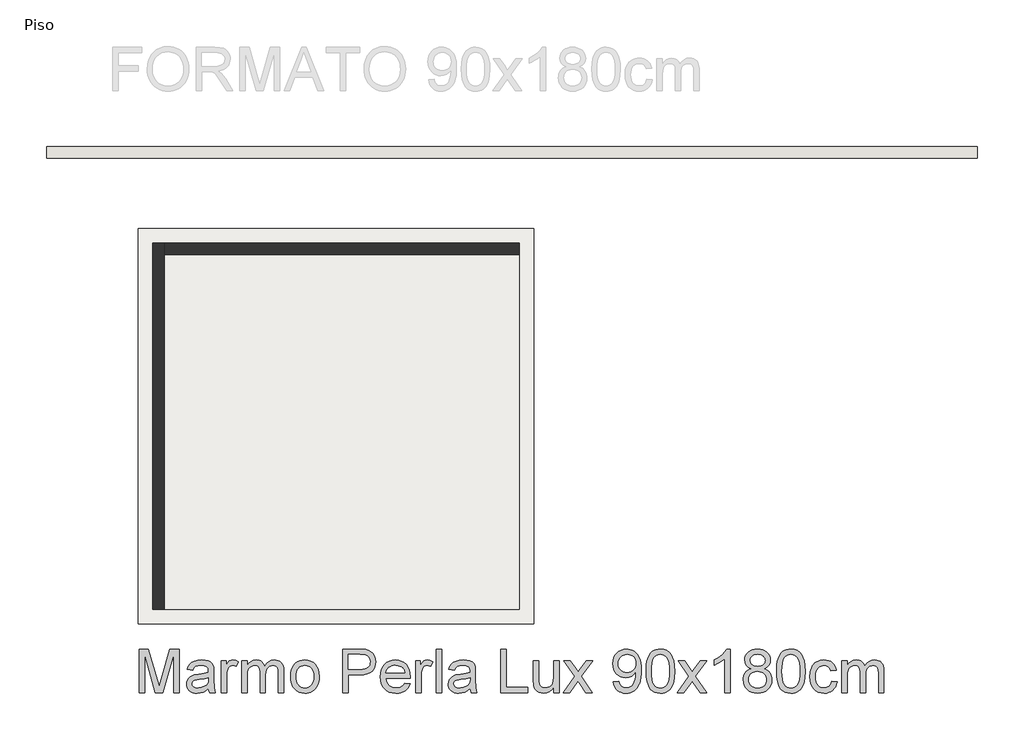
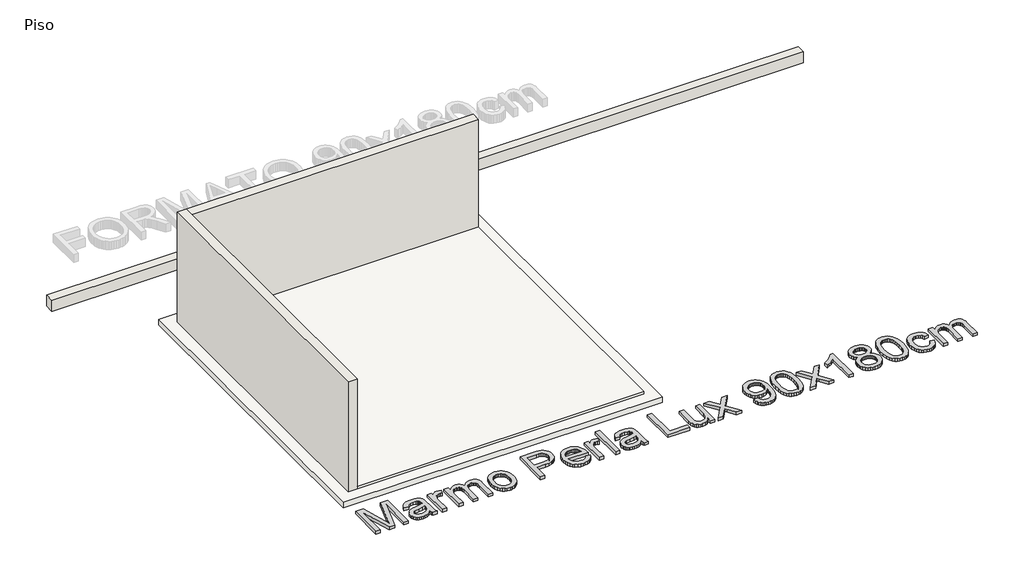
# One storey, part 1 of 2: 3 walls, 2 slabs, 1 proxy.
"""IFC4 building model written with IfcOpenShell, lengths in millimetres."""

from ifc_helpers import new_model, si_unit, frame, origin, origin_with_axes, place, context, project, spatial, polyline, outline, extrude, faceted_brep, element, save

model = new_model("IFC4")

# Units and contexts
model_context = context("Model", 3, world=origin())
ifc_project = project(units=[si_unit("LENGTHUNIT", "METRE", prefix="MILLI")], contexts=[model_context])

# Site, building, storey
site = spatial("IfcSite", under=ifc_project)
building = spatial("IfcBuilding", under=site)
storey = spatial("IfcBuildingStorey", under=building, Name="Piso", Elevation=0.0)

# Proxy
placement = place(None, origin())
element("IfcBuildingElementProxy", 1, Name="600mm Arial", ObjectType="600mm Arial", at=placement, inside=storey, context=model_context, shape_type="SweptSolid", body=[
    extrude(outline(polyline([(87793.9431466, -4721.2732725), (87793.9431466, -4118.5354116), (87923.5847617, -4118.5354116), (88046.8988065, -4543.3655396), (88071.7676294, -4632.0986769), (88098.6965915, -4536.0078997), (88219.9504971, -4118.5354116), (88349.5921122, -4118.5354116), (88349.5921122, -4721.2732725), (88274.2498795, -4721.2732725), (88274.2498795, -4193.8776442), (88122.8296503, -4721.2732725), (88020.7056085, -4721.2732725), (87869.2853793, -4193.8776442), (87869.2853793, -4721.2732725), (87793.9431466, -4721.2732725)])), origin_with_axes(), (0.0, 0.0, 1.0), 50.0),
    extrude(outline(polyline([(88754.5566125, -4664.766598), (88718.5593592, -4695.6318974), (88681.4952482, -4715.828619), (88642.5181508, -4726.9754434), (88600.7819385, -4730.6910516), (88567.235699, -4728.4561684), (88537.818935, -4721.7515191), (88512.5316464, -4710.5771035), (88491.3738331, -4694.9329216), (88474.667392, -4675.8122549), (88462.7342198, -4654.2083848), (88455.5743164, -4630.1213111), (88453.187682, -4603.551034), (88456.7929256, -4572.3178526), (88467.6086562, -4543.9541508), (88484.2921047, -4519.6739391), (88505.5005017, -4500.6912282), (88530.4245069, -4486.3438304), (88558.2547798, -4475.9695581), (88623.4434694, -4464.6387927), (88700.4779592, -4452.719416), (88754.1151541, -4438.7399002), (88754.5566125, -4421.9644812), (88749.3694763, -4388.3400669), (88742.8855562, -4375.8872613), (88733.8080679, -4366.3407235), (88718.1179008, -4356.8125799), (88699.0064312, -4350.006763), (88650.5195842, -4344.5621094), (88605.6379808, -4348.1857471), (88574.2944348, -4359.05666), (88552.9204909, -4379.1614111), (88537.9476937, -4410.486563), (88462.6054611, -4401.0687839), (88475.683666, -4359.8660004), (88495.1998059, -4327.4923849), (88522.9748965, -4302.7339266), (88560.8299538, -4284.376615), (88607.1279029, -4273.0090614), (88660.2316689, -4269.2198768), (88711.1649311, -4272.567603), (88751.5399801, -4282.6107814), (88781.9822152, -4297.7123373), (88803.1170358, -4316.2351958), (88817.1333398, -4339.13585), (88826.2200251, -4367.3707931), (88829.8988451, -4433.2952467), (88829.8988451, -4527.031579), (88833.7248178, -4657.9239929), (88839.3902005, -4690.2792144), (88848.7344032, -4721.2732725), (88773.3921706, -4721.2732725), (88761.3256412, -4695.0800744), (88754.5566125, -4664.766598)]), holes=[polyline([(88754.5566125, -4514.0821328), (88703.9360499, -4526.6269088), (88633.0084012, -4537.1851221), (88568.1875937, -4549.3988043), (88551.3202042, -4557.7497256), (88538.8306105, -4569.2644321), (88531.1050886, -4583.0600069), (88528.5299146, -4598.2535333), (88534.140115, -4620.6575468), (88550.9707163, -4639.0148584), (88578.6538365, -4651.2653288), (88616.8215935, -4655.348819), (88657.2886129, -4650.8422645), (88693.0467429, -4637.3226012), (88722.0358441, -4617.4017911), (88742.1957774, -4593.6917966), (88751.1353099, -4569.2644321), (88754.1151541, -4535.4192885), (88754.5566125, -4514.0821328)])]), origin_with_axes(), (0.0, 0.0, 1.0), 50.0),
    extrude(outline(polyline([(88933.4944149, -4721.2732725), (88933.4944149, -4278.6376559), (88999.4188684, -4278.6376559), (88999.4188684, -4344.120651), (89023.7726565, -4306.1552291), (89046.2134582, -4283.7880038), (89068.7278363, -4272.8619086), (89093.3023536, -4269.2198768), (89130.8263171, -4275.0324123), (89168.9388918, -4292.4700189), (89143.7757633, -4360.0131532), (89117.2882597, -4348.4248704), (89090.800756, -4344.5621094), (89068.304772, -4348.2777176), (89048.200021, -4359.424542), (89031.9580309, -4377.1564542), (89021.0503298, -4400.6273255), (89011.8900681, -4442.7130257), (89008.8366475, -4488.6246987), (89008.8366475, -4721.2732725), (88933.4944149, -4721.2732725)])), origin_with_axes(), (0.0, 0.0, 1.0), 50.0),
    extrude(outline(polyline([(89216.0277872, -4721.2732725), (89216.0277872, -4278.6376559), (89291.3700198, -4278.6376559), (89291.3700198, -4351.4782909), (89314.0315507, -4318.0194235), (89343.1678047, -4291.8078313), (89377.7855005, -4274.8668654), (89416.8913566, -4269.2198768), (89458.7931158, -4274.97723), (89476.6261955, -4282.1739216), (89492.380742, -4292.2492897), (89517.470294, -4319.8956217), (89533.877831, -4356.7757917), (89561.340222, -4318.4700789), (89592.6653739, -4291.1088555), (89627.8532867, -4274.6921215), (89666.9039605, -4269.2198768), (89697.0656856, -4271.4961467), (89723.5393936, -4278.3249562), (89746.3250847, -4289.7063054), (89765.4227588, -4305.6401943), (89780.5197162, -4326.3105639), (89791.3032572, -4351.9013552), (89797.7733817, -4382.4125682), (89799.9300899, -4417.8442029), (89799.9300899, -4721.2732725), (89724.5878573, -4721.2732725), (89724.5878573, -4450.2178184), (89722.8404179, -4412.6386726), (89717.5980994, -4387.3099973), (89707.7756502, -4369.9643612), (89692.2878182, -4356.3343333), (89672.3670081, -4347.5051654), (89649.2456247, -4344.5621094), (89627.8946734, -4346.4475047), (89608.4291174, -4352.1036903), (89590.8489565, -4361.5306665), (89575.1541909, -4374.728433), (89562.2461314, -4392.0832662), (89553.0260889, -4413.9814419), (89547.4940634, -4440.4229603), (89545.6500549, -4471.4078214), (89545.6500549, -4721.2732725), (89470.3078223, -4721.2732725), (89470.3078223, -4441.830109), (89465.9484206, -4399.2293739), (89460.4991686, -4382.5091372), (89452.8702157, -4368.8423211), (89442.7580594, -4358.2197285), (89429.8591969, -4350.6321623), (89414.1736283, -4346.0796227), (89395.7013536, -4344.5621094), (89366.6754642, -4348.6088114), (89339.9304432, -4360.7489172), (89317.8575235, -4380.6881214), (89302.8479381, -4408.1321182), (89294.2394994, -4446.2079047), (89291.3700198, -4498.0424778), (89291.3700198, -4721.2732725), (89216.0277872, -4721.2732725)])), origin_with_axes(), (0.0, 0.0, 1.0), 50.0),
    extrude(outline(polyline([(89894.1078807, -4499.9554642), (89898.1821738, -4442.6302523), (89910.4050531, -4393.2328974), (89930.7765186, -4351.7633995), (89959.2965703, -4318.2217586), (89988.00976, -4296.7834353), (90019.7027939, -4281.4703473), (90054.3756719, -4272.2824944), (90092.0283941, -4269.2198768), (90133.594461, -4272.9492805), (90171.1782054, -4284.1374917), (90204.7796271, -4302.7845103), (90234.3987263, -4328.8903364), (90258.5731719, -4361.5720532), (90275.840633, -4399.9467438), (90286.2011097, -4444.0144083), (90289.6546019, -4493.7750467), (90288.1278916, -4534.1041104), (90283.5477608, -4569.8898315), (90275.9142094, -4601.1322099), (90265.2272374, -4627.8312457), (90251.6202021, -4650.8928483), (90235.2264607, -4671.222927), (90216.0460132, -4688.821482), (90194.0788596, -4703.6885131), (90170.1803255, -4715.5021237), (90145.2057365, -4723.940417), (90119.1550927, -4729.0033929), (90092.0283941, -4730.6910516), (90049.8553219, -4726.9754434), (90011.9220897, -4715.828619), (89978.2286974, -4697.2505782), (89948.7751452, -4671.2413211), (89924.858217, -4638.2423062), (89907.7746968, -4598.6949917), (89897.5245847, -4552.5993777), (89894.1078807, -4499.9554642)]), holes=[polyline([(89969.4501133, -4499.8083114), (89971.6298141, -4536.3527891), (89978.1689166, -4567.9952392), (89989.0674207, -4594.7356617), (90004.3253265, -4616.5740567), (90022.8849731, -4633.5380152), (90043.6887, -4645.6551284), (90066.7365069, -4652.9253963), (90092.0283941, -4655.348819), (90117.1915226, -4652.9116007), (90140.1473591, -4645.5999461), (90160.8959036, -4633.413855), (90179.4371562, -4616.3533275), (90194.6950619, -4594.2988019), (90205.593566, -4567.1307165), (90212.1326685, -4534.8490714), (90214.3123693, -4497.4538666), (90212.1188729, -4462.0682172), (90205.5383837, -4431.2535016), (90194.5709017, -4405.0097198), (90179.216427, -4383.3368717), (90160.6061965, -4366.3729132), (90139.8714476, -4354.2558), (90117.0121801, -4346.9855321), (90092.0283941, -4344.5621094), (90066.7365069, -4346.976335), (90043.6887, -4354.2190118), (90022.8849731, -4366.2901398), (90004.3253265, -4383.1897189), (89989.0674207, -4404.9637345), (89978.1689166, -4431.6581718), (89971.6298141, -4463.2730307), (89969.4501133, -4499.8083114)])]), origin_with_axes(), (0.0, 0.0, 1.0), 50.0),
    extrude(outline(polyline([(90619.2768696, -4721.2732725), (90619.2768696, -4118.5354116), (90842.6548171, -4118.5354116), (90894.6733312, -4119.9701514), (90932.7123295, -4124.2743707), (90972.8666493, -4134.9981309), (91005.9208465, -4152.4541315), (91032.5371089, -4177.433319), (91053.3776239, -4210.7266396), (91066.8421049, -4249.9980426), (91071.3302653, -4292.9114773), (91068.2998373, -4329.911209), (91059.2085535, -4363.9494906), (91044.0564139, -4395.0263221), (91022.8434183, -4423.1417036), (90993.7209599, -4446.447028), (90954.8404315, -4463.0936883), (90906.2018332, -4473.0816844), (90847.805165, -4476.4110165), (90694.6191022, -4476.4110165), (90694.6191022, -4721.2732725), (90619.2768696, -4721.2732725)]), holes=[polyline([(90694.6191022, -4401.0687839), (90852.219749, -4401.0687839), (90888.4561255, -4399.3397385), (90919.0271193, -4394.1526024), (90943.9327303, -4385.5073755), (90963.1729587, -4373.4040578), (90977.5295536, -4358.1645462), (90987.7842642, -4340.1107373), (90993.9370905, -4319.2426311), (90995.9880327, -4295.5602277), (90991.1503844, -4261.7150841), (90976.6374397, -4233.1674413), (90954.2518203, -4211.6831328), (90925.796148, -4199.0279921), (90896.7334704, -4195.1652312), (90850.4539154, -4193.8776442), (90694.6191022, -4193.8776442), (90694.6191022, -4401.0687839)])]), origin_with_axes(), (0.0, 0.0, 1.0), 50.0),
    extrude(outline(polyline([(91475.4118488, -4589.4243654), (91549.2825534, -4598.8421445), (91537.9563865, -4628.429054), (91522.6662911, -4654.5026904), (91503.4122671, -4677.0630537), (91480.1943147, -4696.110144), (91453.2515571, -4711.2392911), (91422.8231176, -4722.0458247), (91388.9089961, -4728.5297448), (91351.5091928, -4730.6910516), (91304.7605883, -4726.9616478), (91263.1071494, -4715.7734367), (91226.5488761, -4697.126418), (91195.0857685, -4671.0205919), (91169.7846842, -4638.1825254), (91151.7124812, -4599.3387852), (91140.8691594, -4554.4893714), (91137.2547188, -4503.6342841), (91140.9059476, -4451.05475), (91151.859634, -4404.7108156), (91170.115778, -4364.6024811), (91195.6743796, -4330.7297464), (91227.0547138, -4303.8191785), (91262.7760556, -4284.5973442), (91302.8384048, -4273.0642437), (91347.2417617, -4269.2198768), (91390.2149772, -4273.0550466), (91429.0771115, -4284.560556), (91463.8281645, -4303.736405), (91494.4681361, -4330.5825936), (91519.4795133, -4364.3817519), (91537.3447827, -4404.41651), (91548.0639443, -4450.686868), (91551.6369982, -4503.1928257), (91551.1955398, -4523.4999119), (91212.5969514, -4523.4999119), (91216.9609516, -4553.5650679), (91225.6383682, -4579.8962217), (91238.6292011, -4602.4933733), (91255.9334505, -4621.3565226), (91276.594623, -4636.2281523), (91299.6562256, -4646.8507449), (91325.1182582, -4653.2243004), (91352.9807208, -4655.348819), (91393.0798583, -4651.4124816), (91426.8514254, -4639.6034696), (91454.2954223, -4619.1860188), (91475.4118488, -4589.4243654)]), holes=[polyline([(91212.5969514, -4448.1576793), (91476.2947656, -4448.1576793), (91466.1044343, -4408.3528474), (91457.3396458, -4392.6994685), (91446.128442, -4379.878781), (91425.5822325, -4364.4277372), (91402.2033317, -4353.3912773), (91375.9917396, -4346.7694014), (91346.9474561, -4344.5621094), (91320.4553539, -4346.3233445), (91296.1613466, -4351.6070496), (91274.0654343, -4360.4132249), (91254.1676169, -4372.7418703), (91237.4703728, -4388.0227686), (91224.9761806, -4405.6857029), (91216.6850401, -4425.7306731), (91212.5969514, -4448.1576793)])]), origin_with_axes(), (0.0, 0.0, 1.0), 50.0),
    extrude(outline(polyline([(91626.9792308, -4721.2732725), (91626.9792308, -4278.6376559), (91692.9036843, -4278.6376559), (91692.9036843, -4344.120651), (91717.2574724, -4306.1552291), (91739.6982741, -4283.7880038), (91762.2126522, -4272.8619086), (91786.7871695, -4269.2198768), (91824.311133, -4275.0324123), (91862.4237077, -4292.4700189), (91837.2605792, -4360.0131532), (91810.7730756, -4348.4248704), (91784.2855719, -4344.5621094), (91761.7895879, -4348.2777176), (91741.6848369, -4359.424542), (91725.4428468, -4377.1564542), (91714.5351456, -4400.6273255), (91705.374884, -4442.7130257), (91702.3214634, -4488.6246987), (91702.3214634, -4721.2732725), (91626.9792308, -4721.2732725)])), origin_with_axes(), (0.0, 0.0, 1.0), 50.0),
    extrude(outline(polyline([(91909.5126031, -4721.2732725), (91909.5126031, -4118.5354116), (91984.8548357, -4118.5354116), (91984.8548357, -4721.2732725), (91909.5126031, -4721.2732725)])), origin_with_axes(), (0.0, 0.0, 1.0), 50.0),
    extrude(outline(polyline([(92380.4015569, -4664.766598), (92344.4043037, -4695.6318974), (92307.3401927, -4715.828619), (92268.3630953, -4726.9754434), (92226.6268829, -4730.6910516), (92193.0806435, -4728.4561684), (92163.6638795, -4721.7515191), (92138.3765908, -4710.5771035), (92117.2187776, -4694.9329216), (92100.5123365, -4675.8122549), (92088.5791642, -4654.2083848), (92081.4192609, -4630.1213111), (92079.0326265, -4603.551034), (92082.63787, -4572.3178526), (92093.4536007, -4543.9541508), (92110.1370492, -4519.6739391), (92131.3454462, -4500.6912282), (92156.2694514, -4486.3438304), (92184.0997243, -4475.9695581), (92249.2884138, -4464.6387927), (92326.3229036, -4452.719416), (92379.9600985, -4438.7399002), (92380.4015569, -4421.9644812), (92375.2144208, -4388.3400669), (92368.7305006, -4375.8872613), (92359.6530124, -4366.3407235), (92343.9628453, -4356.8125799), (92324.8513756, -4350.006763), (92276.3645287, -4344.5621094), (92231.4829253, -4348.1857471), (92200.1393793, -4359.05666), (92178.7654354, -4379.1614111), (92163.7926382, -4410.486563), (92088.4504055, -4401.0687839), (92101.5286105, -4359.8660004), (92121.0447503, -4327.4923849), (92148.819841, -4302.7339266), (92186.6748983, -4284.376615), (92232.9728473, -4273.0090614), (92286.0766134, -4269.2198768), (92337.0098756, -4272.567603), (92377.3849246, -4282.6107814), (92407.8271597, -4297.7123373), (92428.9619803, -4316.2351958), (92442.9782843, -4339.13585), (92452.0649696, -4367.3707931), (92455.7437895, -4433.2952467), (92455.7437895, -4527.031579), (92459.5697623, -4657.9239929), (92465.235145, -4690.2792144), (92474.5793477, -4721.2732725), (92399.2371151, -4721.2732725), (92387.1705856, -4695.0800744), (92380.4015569, -4664.766598)]), holes=[polyline([(92380.4015569, -4514.0821328), (92329.7809944, -4526.6269088), (92258.8533457, -4537.1851221), (92194.0325382, -4549.3988043), (92177.1651487, -4557.7497256), (92164.6755549, -4569.2644321), (92156.950033, -4583.0600069), (92154.3748591, -4598.2535333), (92159.9850595, -4620.6575468), (92176.8156608, -4639.0148584), (92204.4987809, -4651.2653288), (92242.6665379, -4655.348819), (92283.1335574, -4650.8422645), (92318.8916873, -4637.3226012), (92347.8807885, -4617.4017911), (92368.0407219, -4593.6917966), (92376.9802544, -4569.2644321), (92379.9600985, -4535.4192885), (92380.4015569, -4514.0821328)])]), origin_with_axes(), (0.0, 0.0, 1.0), 50.0),
    extrude(outline(polyline([(92804.2016154, -4721.2732725), (92804.2016154, -4118.5354116), (92879.543848, -4118.5354116), (92879.543848, -4645.9310399), (93180.9127784, -4645.9310399), (93180.9127784, -4721.2732725), (92804.2016154, -4721.2732725)])), origin_with_axes(), (0.0, 0.0, 1.0), 50.0),
    extrude(outline(polyline([(93538.7883833, -4721.2732725), (93538.7883833, -4645.1952759), (93511.5283275, -4682.5996777), (93479.7801113, -4709.3171076), (93443.5437348, -4725.3475656), (93402.8191979, -4730.6910516), (93366.1229689, -4726.9386552), (93331.9651256, -4715.6814662), (93303.3071182, -4698.7588944), (93283.1103967, -4678.0103499), (93269.517157, -4652.8104332), (93260.669595, -4622.533745), (93256.255011, -4552.4890131), (93256.255011, -4278.6376559), (93331.5972436, -4278.6376559), (93331.5972436, -4517.0251888), (93332.7376778, -4564.7026953), (93336.1589804, -4593.8389494), (93347.1402579, -4619.4619303), (93365.957422, -4638.941282), (93391.3596738, -4651.2469347), (93422.0962145, -4655.348819), (93454.5985887, -4651.1549642), (93485.0040356, -4638.5734), (93510.0751936, -4618.7629545), (93526.5747011, -4592.8824562), (93535.7349628, -4557.4370259), (93538.7883833, -4508.9317849), (93538.7883833, -4278.6376559), (93614.1306159, -4278.6376559), (93614.1306159, -4721.2732725), (93538.7883833, -4721.2732725)])), origin_with_axes(), (0.0, 0.0, 1.0), 50.0),
    extrude(outline(polyline([(93670.6372904, -4721.2732725), (93831.6224515, -4498.7782418), (93680.0550695, -4278.6376559), (93770.7011931, -4278.6376559), (93843.8361337, -4384.5876705), (93877.9755829, -4434.6196218), (93907.5532953, -4393.711144), (93990.841779, -4278.6376559), (94081.4879026, -4278.6376559), (93922.2685751, -4498.7782418), (94075.6017907, -4721.2732725), (93984.9556671, -4721.2732725), (93892.6908627, -4587.511379), (93875.7682909, -4563.0840146), (93761.283414, -4721.2732725), (93670.6372904, -4721.2732725)])), origin_with_axes(), (0.0, 0.0, 1.0), 50.0),
    extrude(outline(polyline([(94367.5529421, -4570.5888073), (94442.8951747, -4561.1710282), (94455.7710445, -4603.9373101), (94465.2440059, -4620.2022928), (94476.7403182, -4633.05517), (94490.1312229, -4642.8086414), (94505.2879611, -4649.7754067), (94540.8989382, -4655.348819), (94572.8494895, -4651.7619695), (94601.893773, -4641.0014211), (94626.0268319, -4624.2443963), (94643.2437092, -4602.6681172), (94656.285126, -4574.3044154), (94667.8918029, -4537.1851221), (94676.0587832, -4494.5843871), (94678.78111, -4449.77636), (94678.3396516, -4435.0610802), (94652.238424, -4466.919661), (94618.0805808, -4492.1563659), (94578.3309312, -4508.6006911), (94535.4542847, -4514.0821328), (94499.6639651, -4510.7344066), (94466.7523221, -4500.6912282), (94436.7193557, -4483.9525974), (94409.5650659, -4460.5185143), (94387.0644834, -4431.6121865), (94370.9926387, -4398.4568217), (94361.3495319, -4361.0524199), (94358.135163, -4319.398981), (94361.5058818, -4276.3567875), (94371.6180381, -4237.729178), (94388.471632, -4203.5161525), (94412.0666635, -4173.7177109), (94440.7384665, -4149.5754549), (94472.822375, -4132.3309864), (94508.318389, -4121.9843053), (94547.2265085, -4118.5354116), (94575.9534938, -4120.5035803), (94603.4204833, -4126.4080863), (94629.6274769, -4136.2489297), (94654.5744747, -4150.0261104), (94677.4291436, -4167.4453228), (94697.3591507, -4188.2122615), (94714.364496, -4212.3269263), (94728.4451793, -4239.7893172), (94739.4862377, -4272.1813269), (94747.372708, -4311.0848479), (94752.1045901, -4356.4998802), (94753.6818842, -4408.4264238), (94752.1091887, -4462.960331), (94747.3911021, -4511.6357175), (94739.5276244, -4554.4525833), (94728.5187557, -4591.4109282), (94714.4058827, -4623.4120632), (94697.230392, -4651.3572993), (94676.9922838, -4675.2466364), (94653.6915579, -4695.0800744), (94627.797264, -4710.6598769), (94599.7784515, -4721.7883073), (94569.6351205, -4728.4653655), (94537.367271, -4730.6910516), (94503.5313245, -4728.0652938), (94472.9511337, -4720.1880206), (94445.6266985, -4707.0592319), (94421.558019, -4688.6789277), (94401.3521004, -4665.5437487), (94385.615948, -4638.1503357), (94374.3495619, -4606.4986885), (94367.5529421, -4570.5888073)]), holes=[polyline([(94678.3396516, -4317.6331474), (94676.3071036, -4290.6306089), (94670.2094595, -4266.5711264), (94660.0467194, -4245.4546999), (94645.8188832, -4227.2813294), (94628.2249268, -4212.6672171), (94607.9638259, -4202.2285655), (94585.0355806, -4195.9653745), (94559.4401907, -4193.8776442), (94533.0262635, -4196.1263229), (94509.1139338, -4202.872359), (94487.7032017, -4214.1157525), (94468.7940671, -4229.8565033), (94453.3430233, -4249.1749066), (94442.3065635, -4271.1512573), (94435.6846876, -4295.7855554), (94433.4773956, -4323.0778009), (94435.5651259, -4347.5557492), (94441.8283169, -4369.6332674), (94452.2669685, -4389.3103556), (94466.8810808, -4406.5870138), (94485.0636484, -4420.6539016), (94506.207666, -4430.7016786), (94530.3131338, -4436.7303448), (94557.3800516, -4438.7399002), (94582.621355, -4436.7303448), (94605.5174106, -4430.7016786), (94626.0682186, -4420.6539016), (94644.2737788, -4406.5870138), (94659.1775982, -4388.9700648), (94669.8231834, -4368.272104), (94676.2105345, -4344.4931316), (94678.3396516, -4317.6331474)])]), origin_with_axes(), (0.0, 0.0, 1.0), 50.0),
    extrude(outline(polyline([(94819.6063377, -4424.7603844), (94825.1429618, -4328.2833311), (94832.0637418, -4287.3702548), (94841.7528338, -4251.3408118), (94854.1688512, -4219.9006968), (94869.2704071, -4192.7556041), (94887.0575016, -4169.9055337), (94907.5301346, -4151.3504856), (94930.7572841, -4136.9938907), (94956.8079278, -4126.7391801), (94985.6820659, -4120.5863537), (95017.3796983, -4118.5354116), (95063.8064061, -4123.3914539), (95105.3770716, -4137.9595809), (95140.1419201, -4161.6695755), (95166.1511772, -4193.9512206), (95185.7960757, -4234.5286047), (95201.4678487, -4283.1258162), (95211.7317564, -4344.8380209), (95215.1530589, -4424.7603844), (95209.6716172, -4520.6856146), (95202.8198151, -4561.4607353), (95193.227292, -4597.4441929), (95180.9078437, -4628.8981035), (95165.8752657, -4656.0845829), (95148.129558, -4679.0036312), (95127.6707205, -4697.6552484), (95104.4159799, -4712.1084123), (95078.2825626, -4722.4321008), (95049.2704688, -4728.6263139), (95017.3796983, -4730.6910516), (94975.8826093, -4727.1042021), (94939.0944098, -4716.3436538), (94907.0150998, -4698.4094065), (94879.6446793, -4673.3014603), (94853.3779049, -4627.9140192), (94834.6159231, -4571.3613595), (94823.3587341, -4503.6434812), (94819.6063377, -4424.7603844)]), holes=[polyline([(94894.9485703, -4424.6132316), (94897.1558623, -4490.1100223), (94903.7777382, -4543.1264163), (94914.8141981, -4583.6624137), (94930.2652419, -4611.7180143), (94948.9536472, -4630.8064913), (94969.7021918, -4644.4411178), (94992.5108755, -4652.6218937), (95017.3796983, -4655.348819), (95042.2485212, -4652.6126966), (95065.0572049, -4644.4043296), (95085.8057494, -4630.7237179), (95104.4941548, -4611.5708615), (95119.9451986, -4583.4692756), (95130.9816585, -4542.9424753), (95137.6035344, -4489.9904606), (95139.8108263, -4424.6132316), (95137.6771108, -4360.8500848), (95131.275964, -4308.7671913), (95120.6073862, -4268.3645512), (95105.6713772, -4239.6421644), (95087.2956715, -4219.6201868), (95066.3080037, -4205.3187743), (95042.7083737, -4196.7379267), (95016.4967816, -4193.8776442), (94991.7567174, -4196.3976359), (94969.3343098, -4203.9576109), (94949.2295587, -4216.5575692), (94931.4424643, -4234.1975109), (94915.4763857, -4265.4674805), (94904.0720438, -4307.6267571), (94897.2294387, -4360.6753408), (94894.9485703, -4424.6132316)])]), origin_with_axes(), (0.0, 0.0, 1.0), 50.0),
    extrude(outline(polyline([(95252.8241753, -4721.2732725), (95413.8093363, -4498.7782418), (95262.2419543, -4278.6376559), (95352.8880779, -4278.6376559), (95426.0230186, -4384.5876705), (95460.1624677, -4434.6196218), (95489.7401801, -4393.711144), (95573.0286639, -4278.6376559), (95663.6747875, -4278.6376559), (95504.45546, -4498.7782418), (95657.7886755, -4721.2732725), (95567.1425519, -4721.2732725), (95474.8777475, -4587.511379), (95457.9551758, -4563.0840146), (95343.4702989, -4721.2732725), (95252.8241753, -4721.2732725)])), origin_with_axes(), (0.0, 0.0, 1.0), 50.0),
    extrude(outline(polyline([(95987.4109432, -4721.2732725), (95912.0687106, -4721.2732725), (95912.0687106, -4251.561541), (95880.6148, -4277.000581), (95840.6996035, -4302.4028328), (95798.7978443, -4324.6045112), (95761.3842454, -4340.4418311), (95761.3842454, -4269.2198768), (95820.5580643, -4237.0302022), (95871.8224203, -4198.7336865), (95912.2342575, -4158.0091497), (95938.8505199, -4118.5354116), (95987.4109432, -4118.5354116), (95987.4109432, -4721.2732725)])), origin_with_axes(), (0.0, 0.0, 1.0), 50.0),
    extrude(outline(polyline([(96276.124733, -4389.29656), (96235.7864723, -4369.4309323), (96220.1284948, -4356.8493681), (96207.4779527, -4342.5019703), (96190.7577161, -4309.0614969), (96185.1843038, -4269.6613352), (96188.2193303, -4238.9339916), (96197.3244097, -4210.7634278), (96212.499542, -4185.1496439), (96233.7447272, -4162.0926398), (96260.0390928, -4143.0363525), (96290.3617663, -4129.4247186), (96324.7127476, -4121.2577384), (96363.0920367, -4118.5354116), (96401.6552668, -4121.3221177), (96436.2637655, -4129.682236), (96466.9175328, -4143.6157666), (96493.6165686, -4163.1227094), (96515.2480299, -4186.6303689), (96530.6990737, -4212.5660496), (96539.9697, -4240.9297514), (96543.0599087, -4271.7214744), (96537.5600729, -4309.8524432), (96521.0605654, -4342.7226995), (96508.6399496, -4356.9735282), (96493.3774453, -4369.4861146), (96454.3267715, -4389.29656), (96479.0898283, -4399.8317807), (96500.698297, -4413.1904956), (96519.1521776, -4429.3727049), (96534.4514701, -4448.3784085), (96546.4582187, -4469.7845421), (96555.0344677, -4493.1680414), (96560.1802171, -4518.5289064), (96561.8954669, -4545.8671372), (96558.4925584, -4583.446283), (96548.2838331, -4617.8984318), (96531.2692908, -4649.2235837), (96507.4489316, -4677.4217387), (96478.0735543, -4700.7270631), (96444.3939576, -4717.3737233), (96406.4101416, -4727.3617195), (96364.1221063, -4730.6910516), (96321.8340709, -4727.3479239), (96283.8502549, -4717.318541), (96250.1706583, -4700.6029029), (96220.795281, -4677.2010095), (96196.9749218, -4648.805118), (96179.9603795, -4617.1074856), (96169.7516541, -4582.1081122), (96166.3487457, -4543.806998), (96168.1329734, -4515.222567), (96173.4856564, -4489.0661571), (96182.4067948, -4465.3377684), (96194.8963885, -4444.0374009), (96210.6785261, -4425.5513307), (96229.4772961, -4410.2658338), (96251.2926984, -4398.1809102), (96276.124733, -4389.29656)]), holes=[polyline([(96241.6909783, -4541.1582476), (96244.8363693, -4569.981802), (96254.2725425, -4597.8856513), (96271.691755, -4622.2210453), (96298.7862639, -4640.3392335), (96331.2334559, -4651.5964226), (96364.7107175, -4655.348819), (96391.9523792, -4653.3760518), (96415.9934676, -4647.4577502), (96436.8339826, -4637.5939142), (96454.4739243, -4623.7845438), (96468.5086224, -4606.9309499), (96478.5334068, -4587.9344433), (96484.5482774, -4566.7950242), (96486.5532343, -4543.5126924), (96484.4838981, -4519.8578801), (96478.2758894, -4498.3367834), (96467.9292083, -4478.9494023), (96453.4438547, -4461.6957367), (96435.3256665, -4447.5322799), (96414.0804812, -4437.415525), (96389.708299, -4431.3454721), (96362.2091199, -4429.3221211), (96335.3675298, -4431.3178809), (96311.6437397, -4437.3051604), (96291.0377494, -4447.2839595), (96273.5495591, -4461.2542783), (96259.61143, -4478.2228353), (96249.6556235, -4497.1963492), (96243.6821396, -4518.17482), (96241.6909783, -4541.1582476)]), polyline([(96260.5265364, -4271.8686272), (96262.195801, -4289.1406869), (96267.2035947, -4304.7572775), (96275.5499174, -4318.7183993), (96287.2347693, -4331.024052), (96302.1109975, -4341.0672305), (96320.0314492, -4348.2409294), (96340.9961244, -4352.5451487), (96365.0050231, -4353.9798885), (96388.4207121, -4352.5543458), (96408.9301333, -4348.2777176), (96426.5332868, -4341.1500039), (96441.2301725, -4331.1712048), (96452.8184553, -4319.1230695), (96461.0958002, -4305.7873471), (96466.0622071, -4291.1640378), (96467.7176761, -4275.2531415), (96466.0070248, -4258.7214444), (96460.875071, -4243.5601077), (96452.3218146, -4229.7691314), (96440.3472557, -4217.3485155), (96425.3192762, -4207.0800093), (96407.6057581, -4199.745362), (96387.2067015, -4195.3445737), (96364.1221063, -4193.8776442), (96340.8581686, -4195.312384), (96320.362543, -4199.6166033), (96302.6352293, -4206.7903022), (96287.6762277, -4216.8334807), (96275.7982378, -4228.881616), (96267.3139593, -4242.0701856), (96262.2233921, -4256.3991893), (96260.5265364, -4271.8686272)])]), origin_with_axes(), (0.0, 0.0, 1.0), 50.0),
    extrude(outline(polyline([(96627.8199204, -4424.7603844), (96633.3565445, -4328.2833311), (96640.2773245, -4287.3702548), (96649.9664165, -4251.3408118), (96662.3824339, -4219.9006968), (96677.4839898, -4192.7556041), (96695.2710842, -4169.9055337), (96715.7437173, -4151.3504856), (96738.9708667, -4136.9938907), (96765.0215105, -4126.7391801), (96793.8956486, -4120.5863537), (96825.593281, -4118.5354116), (96872.0199888, -4123.3914539), (96913.5906543, -4137.9595809), (96948.3555028, -4161.6695755), (96974.3647599, -4193.9512206), (96994.0096584, -4234.5286047), (97009.6814314, -4283.1258162), (97019.9453391, -4344.8380209), (97023.3666416, -4424.7603844), (97017.8851999, -4520.6856146), (97011.0333978, -4561.4607353), (97001.4408747, -4597.4441929), (96989.1214264, -4628.8981035), (96974.0888484, -4656.0845829), (96956.3431406, -4679.0036312), (96935.8843032, -4697.6552484), (96912.6295626, -4712.1084123), (96886.4961453, -4722.4321008), (96857.4840515, -4728.6263139), (96825.593281, -4730.6910516), (96784.096192, -4727.1042021), (96747.3079925, -4716.3436538), (96715.2286825, -4698.4094065), (96687.858262, -4673.3014603), (96661.5914876, -4627.9140192), (96642.8295058, -4571.3613595), (96631.5723168, -4503.6434812), (96627.8199204, -4424.7603844)]), holes=[polyline([(96703.162153, -4424.6132316), (96705.369445, -4490.1100223), (96711.9913209, -4543.1264163), (96723.0277808, -4583.6624137), (96738.4788246, -4611.7180143), (96757.1672299, -4630.8064913), (96777.9157745, -4644.4411178), (96800.7244582, -4652.6218937), (96825.593281, -4655.348819), (96850.4621039, -4652.6126966), (96873.2707876, -4644.4043296), (96894.0193321, -4630.7237179), (96912.7077375, -4611.5708615), (96928.1587813, -4583.4692756), (96939.1952411, -4542.9424753), (96945.8171171, -4489.9904606), (96948.024409, -4424.6132316), (96945.8906935, -4360.8500848), (96939.4895467, -4308.7671913), (96928.8209689, -4268.3645512), (96913.8849599, -4239.6421644), (96895.5092542, -4219.6201868), (96874.5215864, -4205.3187743), (96850.9219564, -4196.7379267), (96824.7103642, -4193.8776442), (96799.9703001, -4196.3976359), (96777.5478925, -4203.9576109), (96757.4431414, -4216.5575692), (96739.656047, -4234.1975109), (96723.6899684, -4265.4674805), (96712.2856265, -4307.6267571), (96705.4430214, -4360.6753408), (96703.162153, -4424.6132316)])]), origin_with_axes(), (0.0, 0.0, 1.0), 50.0),
    extrude(outline(polyline([(97390.6600256, -4561.1710282), (97466.0022582, -4570.5888073), (97457.8076868, -4606.1400036), (97444.9961963, -4637.5985127), (97427.5677868, -4664.9643346), (97405.5224582, -4688.2374693), (97379.7891127, -4706.8109116), (97351.2966521, -4720.077656), (97320.0450767, -4728.0377027), (97286.0343862, -4730.6910516), (97243.7785405, -4726.989239), (97205.8912935, -4715.8838013), (97172.3726453, -4697.3747384), (97143.2225957, -4671.4620503), (97119.6275642, -4638.6331808), (97102.7739703, -4599.3755734), (97092.661814, -4553.6892281), (97089.2910952, -4501.574145), (97095.0484484, -4434.5276513), (97102.2451399, -4404.3567292), (97112.3205081, -4376.4206902), (97125.3435307, -4351.2805544), (97141.3831857, -4329.4973417), (97160.439473, -4311.0710523), (97182.5123928, -4296.0016861), (97206.6040649, -4284.2846445), (97231.7166096, -4275.9153291), (97257.8500268, -4270.8937399), (97285.0043166, -4269.2198768), (97318.4309944, -4271.5191393), (97348.6662959, -4278.4169267), (97375.710221, -4289.913239), (97399.5627699, -4306.0080763), (97419.8192723, -4326.3335566), (97436.0750579, -4350.5217977), (97448.3301269, -4378.5727999), (97456.5844792, -4410.486563), (97381.2422465, -4419.904342), (97367.5754304, -4387.0340858), (97346.293457, -4363.471244), (97318.5735487, -4349.2893931), (97285.5929278, -4344.5621094), (97259.9929395, -4346.888963), (97236.9037457, -4353.8695239), (97216.3253466, -4365.503792), (97198.2577421, -4381.7917673), (97183.5470609, -4403.110529), (97173.0394314, -4429.8371559), (97166.7348537, -4461.9716482), (97164.6333278, -4499.5140058), (97166.6888684, -4537.621982), (97172.8554904, -4570.1289548), (97183.1331936, -4597.0349242), (97197.5219782, -4618.3398902), (97215.2308977, -4634.5312966), (97235.469006, -4646.0965868), (97258.2363029, -4653.0357609), (97283.5327886, -4655.348819), (97322.5466742, -4649.5730716), (97339.4186622, -4642.3533875), (97354.5340137, -4632.2458297), (97367.4696644, -4619.1400336), (97377.8025499, -4602.9256346), (97385.5326703, -4583.6026328), (97390.6600256, -4561.1710282)])), origin_with_axes(), (0.0, 0.0, 1.0), 50.0),
    extrude(outline(polyline([(97531.9267118, -4721.2732725), (97531.9267118, -4278.6376559), (97607.2689444, -4278.6376559), (97607.2689444, -4351.4782909), (97629.9304753, -4318.0194235), (97659.0667293, -4291.8078313), (97693.6844251, -4274.8668654), (97732.7902811, -4269.2198768), (97774.6920404, -4274.97723), (97792.5251201, -4282.1739216), (97808.2796666, -4292.2492897), (97833.3692186, -4319.8956217), (97849.7767556, -4356.7757917), (97877.2391465, -4318.4700789), (97908.5642984, -4291.1088555), (97943.7522113, -4274.6921215), (97982.8028851, -4269.2198768), (98012.9646101, -4271.4961467), (98039.4383182, -4278.3249562), (98062.2240093, -4289.7063054), (98081.3216834, -4305.6401943), (98096.4186407, -4326.3105639), (98107.2021817, -4351.9013552), (98113.6723063, -4382.4125682), (98115.8290145, -4417.8442029), (98115.8290145, -4721.2732725), (98040.4867819, -4721.2732725), (98040.4867819, -4450.2178184), (98038.7393424, -4412.6386726), (98033.497024, -4387.3099973), (98023.6745747, -4369.9643612), (98008.1867427, -4356.3343333), (97988.2659327, -4347.5051654), (97965.1445493, -4344.5621094), (97943.793598, -4346.4475047), (97924.3280419, -4352.1036903), (97906.7478811, -4361.5306665), (97891.0531155, -4374.728433), (97878.145056, -4392.0832662), (97868.9250135, -4413.9814419), (97863.392988, -4440.4229603), (97861.5489795, -4471.4078214), (97861.5489795, -4721.2732725), (97786.2067468, -4721.2732725), (97786.2067468, -4441.830109), (97781.8473452, -4399.2293739), (97776.3980931, -4382.5091372), (97768.7691403, -4368.8423211), (97758.6569839, -4358.2197285), (97745.7581215, -4350.6321623), (97730.0725529, -4346.0796227), (97711.6002782, -4344.5621094), (97682.5743888, -4348.6088114), (97655.8293677, -4360.7489172), (97633.756448, -4380.6881214), (97618.7468626, -4408.1321182), (97610.1384239, -4446.2079047), (97607.2689444, -4498.0424778), (97607.2689444, -4721.2732725), (97531.9267118, -4721.2732725)])), origin_with_axes(), (0.0, 0.0, 1.0), 50.0),
])

# Slabs
element("IfcSlab", 2, ObjectType="5cm - Porcelanato Marmo Perla Lux  - Polido 90x180", at=placement, inside=storey, context=model_context, shape_type="SweptSolid", body=[
    extrude(outline(polyline([(93063.6333735, 1354.8603588), (93063.6333735, -3565.7396412), (88143.0333735, -3565.7396412), (88143.0333735, 1354.8603588), (93063.6333735, 1354.8603588)])), origin_with_axes(), (0.0, 0.0, 1.0), 50.0),
])
element("IfcSlab", 3, ObjectType="CO02 - Concreto Estrutural Simples", at=placement, inside=storey, context=model_context, shape_type="SweptSolid", body=[
    extrude(outline(polyline([(93263.6333735, 1713.6603588), (93263.6333735, -3765.7396412), (87784.2333735, -3765.7396412), (87784.2333735, 1713.6603588), (93263.6333735, 1713.6603588)])), frame((0.0, 0.0, -100.0), z_axis=(0.0, 0.0, 1.0), x_axis=(1.0, 0.0, 0.0)), (0.0, 0.0, 1.0), 100.0),
])

# Walls
element("IfcWall", 4, ObjectType="CO01 - Bloco de Concreto 14cm / Pintura Branca Simples", at=placement, inside=storey, context=model_context, shape_type="SweptSolid", body=[
    extrude(outline(polyline([(99411.6967628, 2688.6093836), (86511.6967628, 2688.6093836), (86511.6967628, 2847.4093836), (99411.6967628, 2847.4093836), (99411.6967628, 2688.6093836)])), origin_with_axes(), (0.0, 0.0, 1.0), 200.0),
])
element("IfcWall", 5, ObjectType="CO01 - Bloco de Concreto 14cm / Pintura Branca Simples", at=placement, inside=storey, context=model_context, shape_type="Brep", body=[
    faceted_brep([(88143.0333735, -3565.7396412, 0.0), (88143.0333735, 1354.8603588, 0.0), (88143.0333735, 1513.6603588, 0.0), (88143.0333735, 1513.6603588, 2000.0), (88143.0333735, 1354.8603588, 2000.0), (88143.0333735, -3565.7396412, 2000.0), (87984.2333735, -3565.7396412, 0.0), (87984.2333735, -3565.7396412, 2000.0), (87984.2333735, 1513.6603588, 2000.0), (87984.2333735, 1513.6603588, 0.0)], [[[0, 1, 2, 3, 4, 5]], [[6, 7, 8, 9]], [[2, 1, 0, 6, 9]], [[5, 4, 3, 8, 7]], [[0, 5, 7, 6]], [[3, 2, 9, 8]]]),
])
element("IfcWall", 6, ObjectType="CO01 - Bloco de Concreto 14cm / Pintura Branca Simples", at=placement, inside=storey, context=model_context, shape_type="SweptSolid", body=[
    extrude(outline(polyline([(93063.6333735, 1354.8603588), (88143.0333735, 1354.8603588), (88143.0333735, 1513.6603588), (93063.6333735, 1513.6603588), (93063.6333735, 1354.8603588)])), origin_with_axes(), (0.0, 0.0, 1.0), 2000.0),
])

save(model, "model.ifc")
